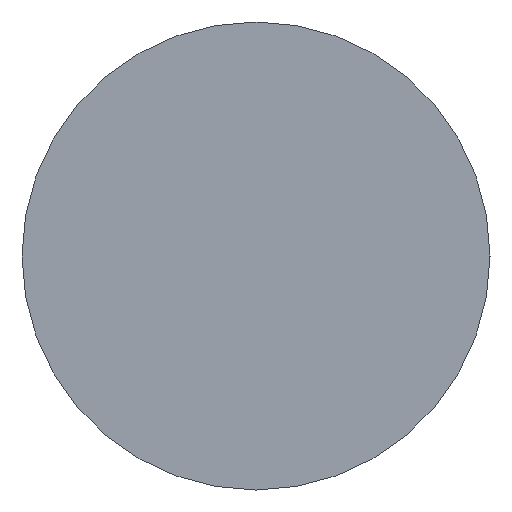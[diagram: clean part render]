
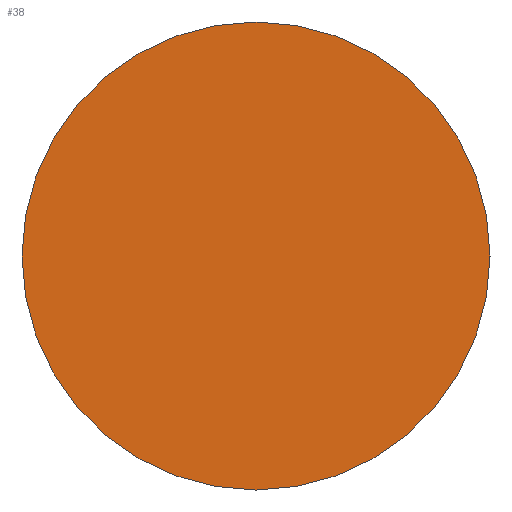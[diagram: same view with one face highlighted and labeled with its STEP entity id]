
A CAD part, left-side view. The second image highlights one B-rep face of the part: STEP entity #38.
In plain terms, the highlighted planar face has unit normal (-1, 0, 0).
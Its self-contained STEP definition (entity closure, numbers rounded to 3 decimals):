
#6 = ORIENTED_EDGE ( 'NONE', *, *, #158, .T. ) ;
#9 = ORIENTED_EDGE ( 'NONE', *, *, #19, .T. ) ;
#19 = EDGE_CURVE ( 'NONE', #36, #42, #162, .T. ) ;
#27 = EDGE_LOOP ( 'NONE', ( #6, #9 ) ) ;
#36 = VERTEX_POINT ( 'NONE', #239 ) ;
#38 = ADVANCED_FACE ( 'NONE', ( #65 ), #66, .F. ) ;
#42 = VERTEX_POINT ( 'NONE', #96 ) ;
#65 = FACE_OUTER_BOUND ( 'NONE', #27, .T. ) ;
#66 = PLANE ( 'NONE',  #67 ) ;
#67 = AXIS2_PLACEMENT_3D ( 'NONE', #68, #69, #70 ) ;
#68 = CARTESIAN_POINT ( 'NONE',  ( 0., 0., 0. ) ) ;
#69 = DIRECTION ( 'NONE',  ( 1., 0., 0. ) ) ;
#70 = DIRECTION ( 'NONE',  ( 0., 0., -1. ) ) ;
#96 = CARTESIAN_POINT ( 'NONE',  ( 0., 0., 6. ) ) ;
#149 = CIRCLE ( 'NONE', #150, 6. ) ;
#150 = AXIS2_PLACEMENT_3D ( 'NONE', #151, #152, #153 ) ;
#151 = CARTESIAN_POINT ( 'NONE',  ( 0., 0., 0. ) ) ;
#152 = DIRECTION ( 'NONE',  ( -1., 0., 0. ) ) ;
#153 = DIRECTION ( 'NONE',  ( 0., 0., 1. ) ) ;
#158 = EDGE_CURVE ( 'NONE', #42, #36, #149, .T. ) ;
#162 = CIRCLE ( 'NONE', #163, 6. ) ;
#163 = AXIS2_PLACEMENT_3D ( 'NONE', #164, #165, #166 ) ;
#164 = CARTESIAN_POINT ( 'NONE',  ( 0., 0., 0. ) ) ;
#165 = DIRECTION ( 'NONE',  ( -1., 0., 0. ) ) ;
#166 = DIRECTION ( 'NONE',  ( 0., 0., 1. ) ) ;
#239 = CARTESIAN_POINT ( 'NONE',  ( 0., 0., -6. ) ) ;
